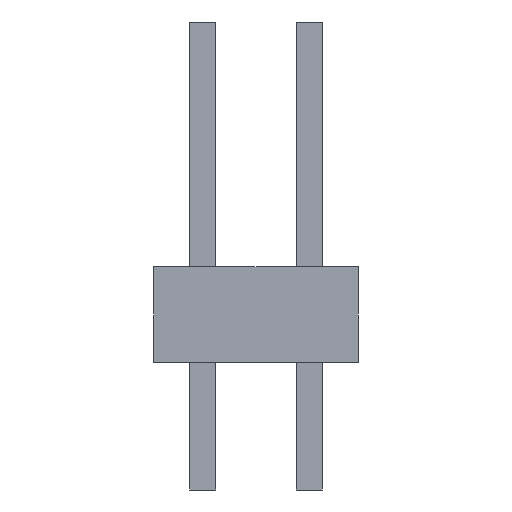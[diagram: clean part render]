
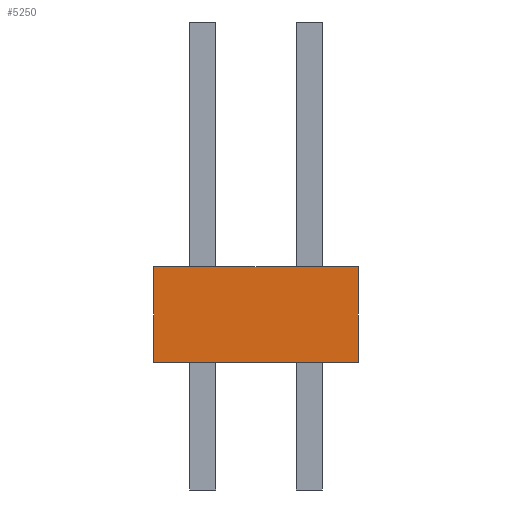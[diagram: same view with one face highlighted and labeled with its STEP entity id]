
A CAD part, left-side view. The second image highlights one B-rep face of the part: STEP entity #5250.
In plain terms, the highlighted planar face has unit normal (-1, 0, 0).
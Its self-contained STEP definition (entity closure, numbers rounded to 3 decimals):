
#154=DIRECTION('',(0.,0.,-1.));
#155=VECTOR('',#154,2.286);
#156=CARTESIAN_POINT('',(-9.957,2.438,0.));
#157=LINE('',#156,#155);
#486=DIRECTION('',(0.,-1.,0.));
#487=VECTOR('',#486,4.877);
#488=CARTESIAN_POINT('',(-9.957,2.438,-2.286));
#489=LINE('',#488,#487);
#914=DIRECTION('',(0.,0.,-1.));
#915=VECTOR('',#914,2.286);
#916=CARTESIAN_POINT('',(-9.957,-2.438,0.));
#917=LINE('',#916,#915);
#1158=DIRECTION('',(0.,-1.,0.));
#1159=VECTOR('',#1158,4.877);
#1160=CARTESIAN_POINT('',(-9.957,2.438,0.));
#1161=LINE('',#1160,#1159);
#3374=CARTESIAN_POINT('',(-9.957,2.438,0.));
#3375=CARTESIAN_POINT('',(-9.957,2.438,-2.286));
#3376=VERTEX_POINT('',#3374);
#3377=VERTEX_POINT('',#3375);
#3382=CARTESIAN_POINT('',(-9.957,-2.438,0.));
#3383=CARTESIAN_POINT('',(-9.957,-2.438,-2.286));
#3384=VERTEX_POINT('',#3382);
#3385=VERTEX_POINT('',#3383);
#5238=CARTESIAN_POINT('',(-9.957,2.438,0.));
#5239=DIRECTION('',(-1.,0.,0.));
#5240=DIRECTION('',(0.,0.,-1.));
#5241=AXIS2_PLACEMENT_3D('',#5238,#5239,#5240);
#5242=PLANE('',#5241);
#5243=ORIENTED_EDGE('',*,*,#4469,.F.);
#5245=ORIENTED_EDGE('',*,*,#5244,.T.);
#5246=ORIENTED_EDGE('',*,*,#5072,.T.);
#5247=ORIENTED_EDGE('',*,*,#4726,.F.);
#5248=EDGE_LOOP('',(#5243,#5245,#5246,#5247));
#5249=FACE_OUTER_BOUND('',#5248,.F.);
#4469=EDGE_CURVE('',#3376,#3377,#157,.T.);
#4726=EDGE_CURVE('',#3377,#3385,#489,.T.);
#5072=EDGE_CURVE('',#3384,#3385,#917,.T.);
#5244=EDGE_CURVE('',#3376,#3384,#1161,.T.);
#5250=ADVANCED_FACE('',(#5249),#5242,.T.);
